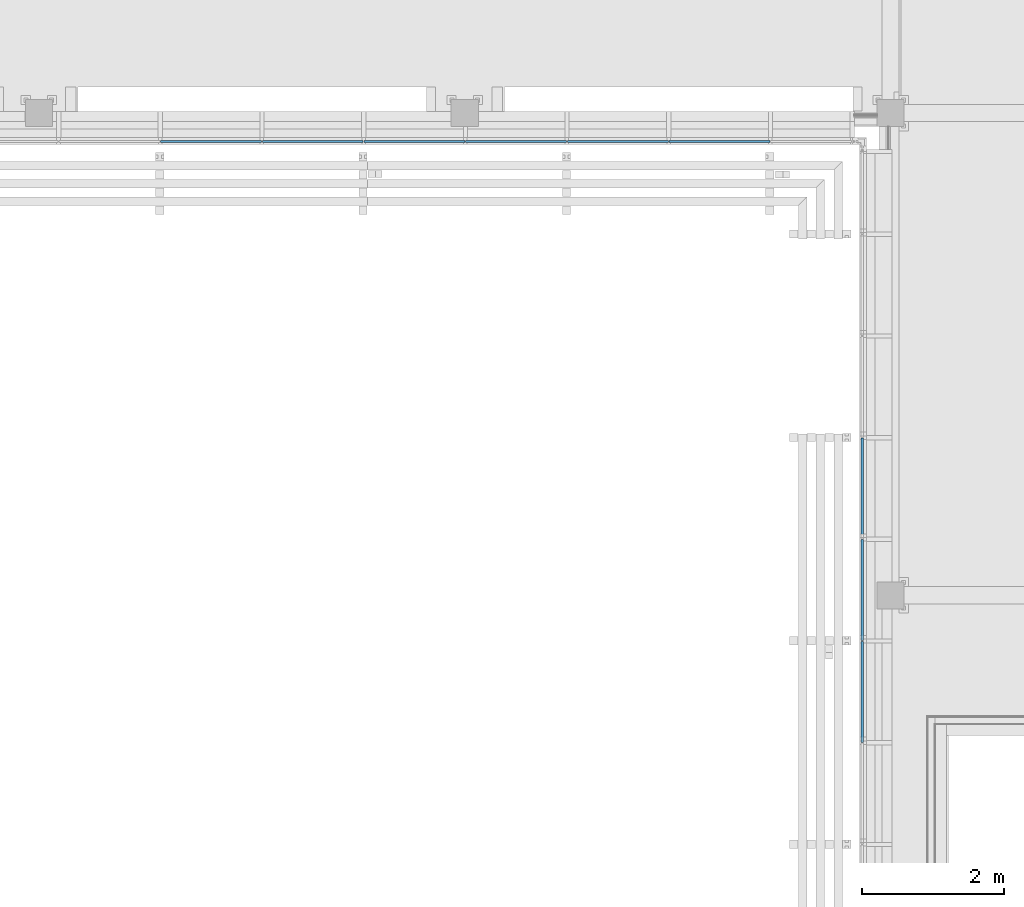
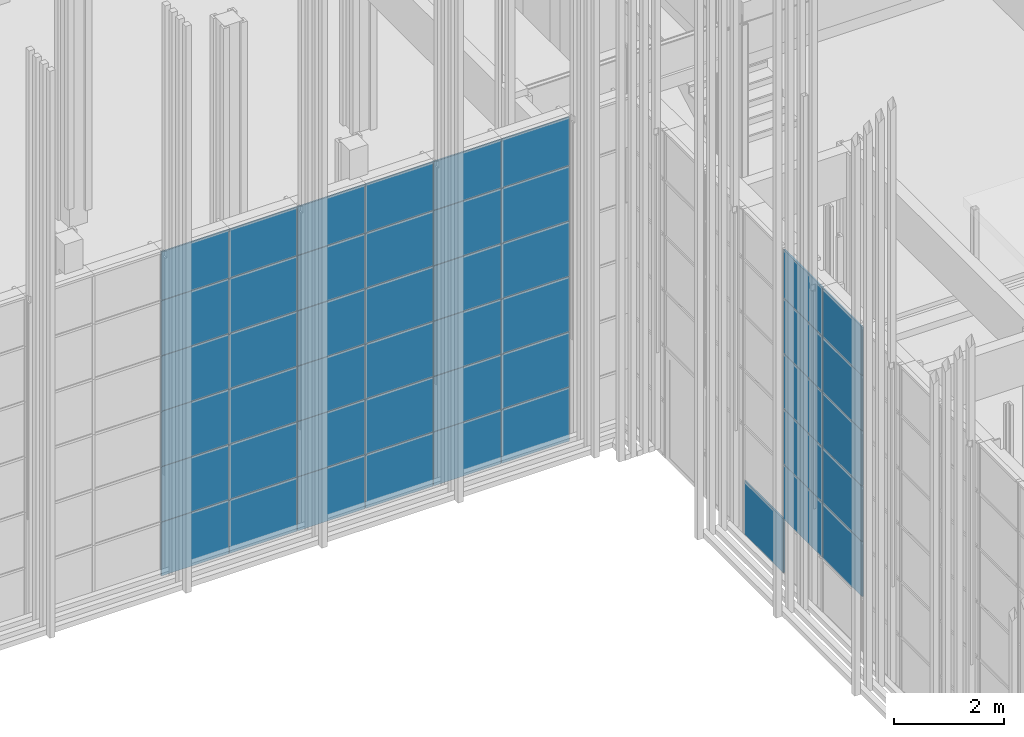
# One storey, part 53 of 260: 47 plates, 1 element without a shape of its own.
"""IFC2X3 building model written with IfcOpenShell, lengths in millimetres."""

from ifc_helpers import new_model, entity, si_unit, converted_unit, derived_unit, money_unit, direction, frame, origin_with_axes, place, context, subcontext, project, spatial, faceted_brep, source, transform, mapped, material, type_object, element, aggregate, save


model = new_model("IFC2X3")

# Units and contexts
model_context = context("Model", 3, precision=0.01, world=origin_with_axes(), true_north=direction((0.0, 1.0)))
body_context = subcontext(model_context, "Body", "Model", "MODEL_VIEW")
ifc_project = project(units=[si_unit("LENGTHUNIT", "METRE", prefix="MILLI"), si_unit("AREAUNIT", "SQUARE_METRE"), si_unit("VOLUMEUNIT", "CUBIC_METRE"), converted_unit("PLANEANGLEUNIT", "DEGREE", entity("IfcPlaneAngleMeasure", 0.0174532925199), si_unit("PLANEANGLEUNIT", "RADIAN"), dimensions=[0, 0, 0, 0, 0, 0, 0]), money_unit("EUR"), converted_unit("TIMEUNIT", "Year", entity("IfcTimeMeasure", 31556926.0), si_unit("TIMEUNIT", "SECOND"), dimensions=[0, 0, 1, 0, 0, 0, 0]), si_unit("MASSUNIT", "GRAM", prefix="KILO"), si_unit("THERMODYNAMICTEMPERATUREUNIT", "DEGREE_CELSIUS"), si_unit("LUMINOUSINTENSITYUNIT", "LUMEN"), si_unit("ENERGYUNIT", "JOULE", prefix="MEGA"), derived_unit("THERMALCONDUCTANCEUNIT", [(si_unit("POWERUNIT", "WATT"), 1), (si_unit("LENGTHUNIT", "METRE"), -1), (si_unit("THERMODYNAMICTEMPERATUREUNIT", "KELVIN"), -1)]), derived_unit("SPECIFICHEATCAPACITYUNIT", [(si_unit("ENERGYUNIT", "JOULE"), 1), (si_unit("MASSUNIT", "GRAM", prefix="KILO"), -1), (si_unit("THERMODYNAMICTEMPERATUREUNIT", "KELVIN"), -1)]), derived_unit("MASSDENSITYUNIT", [(si_unit("MASSUNIT", "GRAM", prefix="KILO"), 1), (si_unit("VOLUMEUNIT", "CUBIC_METRE"), -1)])], contexts=[model_context])

# Site, building, storey
site_placement = place(None, origin_with_axes())
site = spatial("IfcSite", under=ifc_project, at=site_placement, Name="Kolde pst 67a", CompositionType="ELEMENT")
building_placement = place(site_placement, origin_with_axes())
building = spatial("IfcBuilding", under=site, at=building_placement, Name="Riigigümnaasium", CompositionType="ELEMENT")
storey_placement = place(building_placement, origin_with_axes())
storey = spatial("IfcBuildingStorey", under=building, at=storey_placement, Name="1. korrus", CompositionType="ELEMENT", Elevation=0.0)

# Curtain wall, plates
curtain_wall_type = type_object("IfcCurtainWallType", Name="Curtain Wall Type", PredefinedType="NOTDEFINED")
curtain_wall_placement = place(storey_placement, frame((47829.9854655, 8727.77020058, -0.000749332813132), z_axis=(0.0, 0.0, 1.0), x_axis=(1.0, 0.0, 0.0)))
curtain_wall = element("IfcCurtainWall", 1, at=curtain_wall_placement, inside=storey, type_object=curtain_wall_type, Name="KLAASFASSAAD")
ifc_material = material(Name="_KLAAS - kirgas")
plate_type_1 = type_object("IfcPlateType", Name="Main Panel 72 x 1195 x 33", PredefinedType="NOTDEFINED")
shared_shape_1 = source(origin_with_axes(), body_context, "Body", "Brep", [
    faceted_brep([(-2777.75197811, 1225.00067812, -16.5), (-2777.75197811, 1225.00067812, 16.5), (-1430.00000069, 1225.00067812, 16.5), (-1430.00000069, 1225.00067812, -16.5), (-2777.75199941, 30.0000019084, -16.5), (-2777.75199941, 30.0000019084, 16.5), (-1430.00000069, 30.0000019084, 16.5), (-1357.75198011, 30.0000019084, 16.5), (-1357.75198011, 1225.00067812, 16.5), (-1357.75198011, 1225.00067812, -16.5), (-1357.75198011, 30.0000019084, -16.5), (-1430.00000069, 30.0000019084, -16.5)], [[[0, 1, 2, 3]], [[4, 5, 1, 0]], [[1, 5, 6, 7, 8, 2]], [[3, 2, 8, 9]], [[0, 3, 9, 10, 11, 4]], [[11, 6, 5, 4]], [[10, 7, 6, 11]], [[9, 8, 7, 10]]]),
])
plate_1_placement = place(curtain_wall_placement, frame((-9.12638142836e-06, 10011.2070705, 615.000374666), z_axis=(0.0, 0.0, 1.0), x_axis=(9.11611423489e-10, -1.0, 0.0)))
plate_1 = element("IfcPlate", 2, at=plate_1_placement, type_object=plate_type_1, material=ifc_material, Name="RF PANEEL PEAMINE-010", context=body_context, shape_type="MappedRepresentation", body=[
    mapped(shared_shape_1, transform((1855.16798587, 0.0, -615.000374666), x_axis=(1.0, 0.0, 0.0), y_axis=(0.0, 0.0, 1.0), z_axis=(0.0, -1.0, 0.0))),
])
plate_type_2 = type_object("IfcPlateType", Name="Main Panel 72 x 1220 x 33", PredefinedType="NOTDEFINED")
shared_shape_2 = source(origin_with_axes(), body_context, "Body", "Brep", [
    faceted_brep([(-2777.75197336, 1224.99999549, -16.5), (-2777.75197336, 1224.99999549, 16.5), (-1429.999994, 1224.99999549, 16.5), (-1429.999994, 1224.99999549, -16.5), (-2777.75197336, 5.00000998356, -16.5), (-2777.75197336, 5.00000998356, 16.5), (-1429.999994, 5.00000998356, 16.5), (-1357.76038895, 5.00000998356, 16.5), (-1357.76038895, 1224.99999549, 16.5), (-1357.76038895, 1224.99999549, -16.5), (-1357.76038895, 5.00000998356, -16.5), (-1429.999994, 5.00000998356, -16.5)], [[[0, 1, 2, 3]], [[4, 5, 1, 0]], [[1, 5, 6, 7, 8, 2]], [[3, 2, 8, 9]], [[0, 3, 9, 10, 11, 4]], [[11, 6, 5, 4]], [[10, 7, 6, 11]], [[9, 8, 7, 10]]]),
])
plate_2_placement = place(curtain_wall_placement, frame((-7.82276998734e-06, 8581.20987414, 1845.00074933), z_axis=(0.0, 0.0, 1.0), x_axis=(9.1161639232e-10, -1.0, 0.0)))
plate_2 = element("IfcPlate", 3, at=plate_2_placement, type_object=plate_type_2, material=ifc_material, Name="RF PANEEL PEAMINE-010", context=body_context, shape_type="MappedRepresentation", body=[
    mapped(shared_shape_2, transform((1855.17078947, 0.0, -615.0), x_axis=(1.0, 0.0, 0.0), y_axis=(0.0, 0.0, 1.0), z_axis=(0.0, -1.0, 0.0))),
])
plate_3_placement = place(curtain_wall_placement, frame((-7.82276998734e-06, 8581.20987211, 3075.00074933), z_axis=(0.0, 0.0, 1.0), x_axis=(9.1161639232e-10, -1.0, 0.0)))
plate_3 = element("IfcPlate", 4, at=plate_3_placement, type_object=plate_type_2, material=ifc_material, Name="RF PANEEL PEAMINE-010", context=body_context, shape_type="MappedRepresentation", body=[
    mapped(shared_shape_2, transform((1855.17078744, 0.0, -615.0), x_axis=(1.0, 0.0, 0.0), y_axis=(0.0, 0.0, 1.0), z_axis=(0.0, -1.0, 0.0))),
])
plate_4_placement = place(curtain_wall_placement, frame((-7.82276998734e-06, 8581.20987414, 5535.00074933), z_axis=(0.0, 0.0, 1.0), x_axis=(9.1161639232e-10, -1.0, 0.0)))
plate_4 = element("IfcPlate", 5, at=plate_4_placement, type_object=plate_type_2, material=ifc_material, Name="RF PANEEL PEAMINE-057", context=body_context, shape_type="MappedRepresentation", body=[
    mapped(shared_shape_2, transform((1855.17078947, 0.0, -615.0), x_axis=(1.0, 0.0, 0.0), y_axis=(0.0, 0.0, 1.0), z_axis=(0.0, -1.0, 0.0))),
])
plate_5_placement = place(curtain_wall_placement, frame((-7.82276998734e-06, 8581.20987211, 4305.00074933), z_axis=(0.0, 0.0, 1.0), x_axis=(9.1161639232e-10, -1.0, 0.0)))
plate_5 = element("IfcPlate", 6, at=plate_5_placement, type_object=plate_type_2, material=ifc_material, Name="RF PANEEL PEAMINE-039", context=body_context, shape_type="MappedRepresentation", body=[
    mapped(shared_shape_2, transform((1855.17078744, 0.0, -615.0), x_axis=(1.0, 0.0, 0.0), y_axis=(0.0, 0.0, 1.0), z_axis=(0.0, -1.0, 0.0))),
])
shared_shape_3 = source(origin_with_axes(), body_context, "Body", "Brep", [
    faceted_brep([(-2777.76037427, 1224.99999929, -16.5), (-2777.76037427, 1224.99999929, 16.5), (-1430.00000489, 1224.99999929, 16.5), (-1430.00000489, 1224.99999929, -16.5), (-2777.76037427, 5.00000469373, -16.5), (-2777.76037427, 5.00000469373, 16.5), (-1430.00000489, 5.00000469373, 16.5), (-1357.75200935, 5.00000469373, 16.5), (-1357.75200935, 1224.99999929, 16.5), (-1357.75200935, 1224.99999929, -16.5), (-1357.75200935, 5.00000469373, -16.5), (-1430.00000489, 5.00000469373, -16.5)], [[[0, 1, 2, 3]], [[4, 5, 1, 0]], [[1, 5, 6, 7, 8, 2]], [[3, 2, 8, 9]], [[0, 3, 9, 10, 11, 4]], [[11, 6, 5, 4]], [[10, 7, 6, 11]], [[9, 8, 7, 10]]]),
])
plate_6_placement = place(curtain_wall_placement, frame((-6.51916565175e-06, 7151.20987921, 4305.00074933), z_axis=(0.0, 0.0, 1.0), x_axis=(9.1161639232e-10, -1.0, 0.0)))
plate_6 = element("IfcPlate", 7, at=plate_6_placement, type_object=plate_type_2, material=ifc_material, Name="RF PANEEL PEAMINE-038", context=body_context, shape_type="MappedRepresentation", body=[
    mapped(shared_shape_3, transform((1855.17079454, 0.0, -615.0), x_axis=(1.0, 0.0, 0.0), y_axis=(0.0, 0.0, 1.0), z_axis=(0.0, -1.0, 0.0))),
])
plate_7_placement = place(curtain_wall_placement, frame((-6.51916565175e-06, 7151.20987769, 5535.00074933), z_axis=(0.0, 0.0, 1.0), x_axis=(9.1161639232e-10, -1.0, 0.0)))
plate_7 = element("IfcPlate", 8, at=plate_7_placement, type_object=plate_type_2, material=ifc_material, Name="RF PANEEL PEAMINE-055", context=body_context, shape_type="MappedRepresentation", body=[
    mapped(shared_shape_3, transform((1855.17079302, 0.0, -615.0), x_axis=(1.0, 0.0, 0.0), y_axis=(0.0, 0.0, 1.0), z_axis=(0.0, -1.0, 0.0))),
])
plate_8_placement = place(curtain_wall_placement, frame((-6.51916565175e-06, 7151.20988124, 1845.00074933), z_axis=(0.0, 0.0, 1.0), x_axis=(9.1161639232e-10, -1.0, 0.0)))
plate_8 = element("IfcPlate", 9, at=plate_8_placement, type_object=plate_type_2, material=ifc_material, Name="RF PANEEL PEAMINE-010", context=body_context, shape_type="MappedRepresentation", body=[
    mapped(shared_shape_3, transform((1855.17079657, 0.0, -615.0), x_axis=(1.0, 0.0, 0.0), y_axis=(0.0, 0.0, 1.0), z_axis=(0.0, -1.0, 0.0))),
])
plate_9_placement = place(curtain_wall_placement, frame((-6.51916565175e-06, 7151.20987921, 3075.00074933), z_axis=(0.0, 0.0, 1.0), x_axis=(9.1161639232e-10, -1.0, 0.0)))
plate_9 = element("IfcPlate", 10, at=plate_9_placement, type_object=plate_type_2, material=ifc_material, Name="RF PANEEL PEAMINE-010", context=body_context, shape_type="MappedRepresentation", body=[
    mapped(shared_shape_3, transform((1855.17079454, 0.0, -615.0), x_axis=(1.0, 0.0, 0.0), y_axis=(0.0, 0.0, 1.0), z_axis=(0.0, -1.0, 0.0))),
])
plate_type_3 = type_object("IfcPlateType", Name="Main Panel 72 x 1075 x 33", PredefinedType="NOTDEFINED")
shared_shape_4 = source(origin_with_axes(), body_context, "Body", "Brep", [
    faceted_brep([(-2777.76038635, 1079.99918528, -16.5), (-2777.76038635, 1079.99918528, 16.5), (-1430.0000067, 1079.99918528, 16.5), (-1430.0000067, 1079.99918528, -16.5), (-2777.76038635, 5.00000481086, -16.5), (-2777.76038635, 5.00000481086, 16.5), (-1430.0000067, 5.00000481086, 16.5), (-1357.75198816, 5.00000481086, 16.5), (-1357.75198816, 1079.99918528, 16.5), (-1357.75198816, 1079.99918528, -16.5), (-1357.75198816, 5.00000481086, -16.5), (-1430.0000067, 5.00000481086, -16.5)], [[[0, 1, 2, 3]], [[4, 5, 1, 0]], [[1, 5, 6, 7, 8, 2]], [[3, 2, 8, 9]], [[0, 3, 9, 10, 11, 4]], [[11, 6, 5, 4]], [[10, 7, 6, 11]], [[9, 8, 7, 10]]]),
])
plate_10_placement = place(curtain_wall_placement, frame((-6.5676175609e-06, 7204.35622804, 6841.25023585), z_axis=(0.0, 0.0, 1.0), x_axis=(9.1161639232e-10, -1.0, 0.0)))
plate_10 = element("IfcPlate", 11, at=plate_10_placement, type_object=plate_type_3, material=ifc_material, Name="RF PANEEL PEAMINE-058", context=body_context, shape_type="MappedRepresentation", body=[
    mapped(shared_shape_4, transform((1908.31714337, 0.0, -691.24948652), x_axis=(1.0, 0.0, 0.0), y_axis=(0.0, 0.0, 1.0), z_axis=(0.0, -1.0, 0.0))),
])
plate_type_4 = type_object("IfcPlateType", Name="Main Panel 1420 x 1195 x 33", PredefinedType="NOTDEFINED")
shared_shape_5 = source(origin_with_axes(), body_context, "Body", "Brep", [
    faceted_brep([(-1425.00000328, 1225.00045404, -16.5), (-1425.00000328, 1225.00045404, 16.5), (-4.99999672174, 1225.00045404, 16.5), (-4.99999672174, 1225.00045404, -16.5), (-1425.00000328, 30.0000016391, -16.5), (-1425.00000328, 30.0000016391, 16.5), (-4.99999672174, 30.0000016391, 16.5), (-4.99999672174, 30.0000016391, -16.5)], [[[0, 1, 2, 3]], [[4, 5, 1, 0]], [[1, 5, 6, 2]], [[3, 2, 6, 7]], [[0, 3, 7, 4]], [[7, 6, 5, 4]]]),
])
plate_11_placement = place(curtain_wall_placement, frame((-2007.41506419, 15102.252851, 615.000517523), z_axis=(0.0, 0.0, 1.0), x_axis=(0.999999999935, -1.14108152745e-05, 0.0)))
plate_11 = element("IfcPlate", 12, at=plate_11_placement, type_object=plate_type_4, material=ifc_material, Name="RF PANEEL PEAMINE-091", context=body_context, shape_type="MappedRepresentation", body=[
    mapped(shared_shape_5, transform((715.0, 0.0, -615.00023181), x_axis=(1.0, 0.0, 0.0), y_axis=(0.0, 0.0, 1.0), z_axis=(0.0, -1.0, 0.0))),
])
plate_12_placement = place(curtain_wall_placement, frame((-3437.4150641, 15102.2691685, 615.000517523), z_axis=(0.0, 0.0, 1.0), x_axis=(0.999999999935, -1.14108152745e-05, 0.0)))
plate_12 = element("IfcPlate", 13, at=plate_12_placement, type_object=plate_type_4, material=ifc_material, Name="RF PANEEL PEAMINE-096", context=body_context, shape_type="MappedRepresentation", body=[
    mapped(shared_shape_5, transform((715.0, 0.0, -615.00023181), x_axis=(1.0, 0.0, 0.0), y_axis=(0.0, 0.0, 1.0), z_axis=(0.0, -1.0, 0.0))),
])
plate_13_placement = place(curtain_wall_placement, frame((-4867.41506401, 15102.285486, 615.000517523), z_axis=(0.0, 0.0, 1.0), x_axis=(0.999999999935, -1.1410815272e-05, 0.0)))
plate_13 = element("IfcPlate", 14, at=plate_13_placement, type_object=plate_type_4, material=ifc_material, Name="RF PANEEL PEAMINE-101", context=body_context, shape_type="MappedRepresentation", body=[
    mapped(shared_shape_5, transform((715.0, 0.0, -615.00023181), x_axis=(1.0, 0.0, 0.0), y_axis=(0.0, 0.0, 1.0), z_axis=(0.0, -1.0, 0.0))),
])
plate_14_placement = place(curtain_wall_placement, frame((-6297.41506391, 15102.3018034, 615.000517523), z_axis=(0.0, 0.0, 1.0), x_axis=(0.999999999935, -1.14108152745e-05, 0.0)))
plate_14 = element("IfcPlate", 15, at=plate_14_placement, type_object=plate_type_4, material=ifc_material, Name="RF PANEEL PEAMINE-107", context=body_context, shape_type="MappedRepresentation", body=[
    mapped(shared_shape_5, transform((715.0, 0.0, -615.00023181), x_axis=(1.0, 0.0, 0.0), y_axis=(0.0, 0.0, 1.0), z_axis=(0.0, -1.0, 0.0))),
])
plate_15_placement = place(curtain_wall_placement, frame((-7727.41506382, 15102.3181209, 615.000517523), z_axis=(0.0, 0.0, 1.0), x_axis=(0.999999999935, -1.1410815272e-05, 0.0)))
plate_15 = element("IfcPlate", 16, at=plate_15_placement, type_object=plate_type_4, material=ifc_material, Name="RF PANEEL PEAMINE-113", context=body_context, shape_type="MappedRepresentation", body=[
    mapped(shared_shape_5, transform((715.0, 0.0, -615.00023181), x_axis=(1.0, 0.0, 0.0), y_axis=(0.0, 0.0, 1.0), z_axis=(0.0, -1.0, 0.0))),
])
plate_16_placement = place(curtain_wall_placement, frame((-9157.41506373, 15102.3344384, 615.000517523), z_axis=(0.0, 0.0, 1.0), x_axis=(0.999999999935, -1.14108152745e-05, 0.0)))
plate_16 = element("IfcPlate", 17, at=plate_16_placement, type_object=plate_type_4, material=ifc_material, Name="RF PANEEL PEAMINE-119", context=body_context, shape_type="MappedRepresentation", body=[
    mapped(shared_shape_5, transform((715.0, 0.0, -615.00023181), x_axis=(1.0, 0.0, 0.0), y_axis=(0.0, 0.0, 1.0), z_axis=(0.0, -1.0, 0.0))),
])
plate_type_5 = type_object("IfcPlateType", Name="Main Panel 1420 x 1220 x 33", PredefinedType="NOTDEFINED")
shared_shape_6 = source(origin_with_axes(), body_context, "Body", "Brep", [
    faceted_brep([(-1425.00000328, 1225.00000656, -16.5), (-1425.00000328, 1225.00000656, 16.5), (-4.99999672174, 1225.00000656, 16.5), (-4.99999672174, 1225.00000656, -16.5), (-1425.00000328, 4.99999672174, -16.5), (-1425.00000328, 4.99999672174, 16.5), (-4.99999672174, 4.99999672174, 16.5), (-4.99999672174, 4.99999672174, -16.5)], [[[0, 1, 2, 3]], [[4, 5, 1, 0]], [[1, 5, 6, 2]], [[3, 2, 6, 7]], [[0, 3, 7, 4]], [[7, 6, 5, 4]]]),
])
plate_17_placement = place(curtain_wall_placement, frame((-2007.41506419, 15102.252851, 1845.00074933), z_axis=(0.0, 0.0, 1.0), x_axis=(0.999999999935, -1.14108152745e-05, 0.0)))
plate_17 = element("IfcPlate", 18, at=plate_17_placement, type_object=plate_type_5, material=ifc_material, Name="RF PANEEL PEAMINE-092", context=body_context, shape_type="MappedRepresentation", body=[
    mapped(shared_shape_6, transform((715.0, 0.0, -615.0), x_axis=(1.0, 0.0, 0.0), y_axis=(0.0, 0.0, 1.0), z_axis=(0.0, -1.0, 0.0))),
])
plate_18_placement = place(curtain_wall_placement, frame((-2007.41506419, 15102.252851, 3075.00074933), z_axis=(0.0, 0.0, 1.0), x_axis=(0.999999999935, -1.14108152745e-05, 0.0)))
plate_18 = element("IfcPlate", 19, at=plate_18_placement, type_object=plate_type_5, material=ifc_material, Name="RF PANEEL PEAMINE-093", context=body_context, shape_type="MappedRepresentation", body=[
    mapped(shared_shape_6, transform((715.0, 0.0, -615.0), x_axis=(1.0, 0.0, 0.0), y_axis=(0.0, 0.0, 1.0), z_axis=(0.0, -1.0, 0.0))),
])
plate_19_placement = place(curtain_wall_placement, frame((-2007.41506419, 15102.252851, 4305.00074933), z_axis=(0.0, 0.0, 1.0), x_axis=(0.999999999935, -1.14108152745e-05, 0.0)))
plate_19 = element("IfcPlate", 20, at=plate_19_placement, type_object=plate_type_5, material=ifc_material, Name="RF PANEEL PEAMINE-094", context=body_context, shape_type="MappedRepresentation", body=[
    mapped(shared_shape_6, transform((715.0, 0.0, -615.0), x_axis=(1.0, 0.0, 0.0), y_axis=(0.0, 0.0, 1.0), z_axis=(0.0, -1.0, 0.0))),
])
plate_20_placement = place(curtain_wall_placement, frame((-2007.41506419, 15102.252851, 5535.00074933), z_axis=(0.0, 0.0, 1.0), x_axis=(0.999999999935, -1.14108152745e-05, 0.0)))
plate_20 = element("IfcPlate", 21, at=plate_20_placement, type_object=plate_type_5, material=ifc_material, Name="RF PANEEL PEAMINE-095", context=body_context, shape_type="MappedRepresentation", body=[
    mapped(shared_shape_6, transform((715.0, 0.0, -615.0), x_axis=(1.0, 0.0, 0.0), y_axis=(0.0, 0.0, 1.0), z_axis=(0.0, -1.0, 0.0))),
])
plate_21_placement = place(curtain_wall_placement, frame((-3437.4150641, 15102.2691685, 1845.00074933), z_axis=(0.0, 0.0, 1.0), x_axis=(0.999999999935, -1.14108152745e-05, 0.0)))
plate_21 = element("IfcPlate", 22, at=plate_21_placement, type_object=plate_type_5, material=ifc_material, Name="RF PANEEL PEAMINE-097", context=body_context, shape_type="MappedRepresentation", body=[
    mapped(shared_shape_6, transform((715.0, 0.0, -615.0), x_axis=(1.0, 0.0, 0.0), y_axis=(0.0, 0.0, 1.0), z_axis=(0.0, -1.0, 0.0))),
])
plate_22_placement = place(curtain_wall_placement, frame((-3437.4150641, 15102.2691685, 3075.00074933), z_axis=(0.0, 0.0, 1.0), x_axis=(0.999999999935, -1.14108152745e-05, 0.0)))
plate_22 = element("IfcPlate", 23, at=plate_22_placement, type_object=plate_type_5, material=ifc_material, Name="RF PANEEL PEAMINE-098", context=body_context, shape_type="MappedRepresentation", body=[
    mapped(shared_shape_6, transform((715.0, 0.0, -615.0), x_axis=(1.0, 0.0, 0.0), y_axis=(0.0, 0.0, 1.0), z_axis=(0.0, -1.0, 0.0))),
])
plate_23_placement = place(curtain_wall_placement, frame((-3437.4150641, 15102.2691685, 4305.00074933), z_axis=(0.0, 0.0, 1.0), x_axis=(0.999999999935, -1.14108152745e-05, 0.0)))
plate_23 = element("IfcPlate", 24, at=plate_23_placement, type_object=plate_type_5, material=ifc_material, Name="RF PANEEL PEAMINE-099", context=body_context, shape_type="MappedRepresentation", body=[
    mapped(shared_shape_6, transform((715.0, 0.0, -615.0), x_axis=(1.0, 0.0, 0.0), y_axis=(0.0, 0.0, 1.0), z_axis=(0.0, -1.0, 0.0))),
])
plate_24_placement = place(curtain_wall_placement, frame((-3437.4150641, 15102.2691685, 5535.00074933), z_axis=(0.0, 0.0, 1.0), x_axis=(0.999999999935, -1.14108152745e-05, 0.0)))
plate_24 = element("IfcPlate", 25, at=plate_24_placement, type_object=plate_type_5, material=ifc_material, Name="RF PANEEL PEAMINE-100", context=body_context, shape_type="MappedRepresentation", body=[
    mapped(shared_shape_6, transform((715.0, 0.0, -615.0), x_axis=(1.0, 0.0, 0.0), y_axis=(0.0, 0.0, 1.0), z_axis=(0.0, -1.0, 0.0))),
])
plate_25_placement = place(curtain_wall_placement, frame((-4867.41506401, 15102.285486, 1845.00074933), z_axis=(0.0, 0.0, 1.0), x_axis=(0.999999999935, -1.1410815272e-05, 0.0)))
plate_25 = element("IfcPlate", 26, at=plate_25_placement, type_object=plate_type_5, material=ifc_material, Name="RF PANEEL PEAMINE-102", context=body_context, shape_type="MappedRepresentation", body=[
    mapped(shared_shape_6, transform((715.0, 0.0, -615.0), x_axis=(1.0, 0.0, 0.0), y_axis=(0.0, 0.0, 1.0), z_axis=(0.0, -1.0, 0.0))),
])
plate_26_placement = place(curtain_wall_placement, frame((-4867.41506401, 15102.285486, 3075.00074933), z_axis=(0.0, 0.0, 1.0), x_axis=(0.999999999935, -1.1410815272e-05, 0.0)))
plate_26 = element("IfcPlate", 27, at=plate_26_placement, type_object=plate_type_5, material=ifc_material, Name="RF PANEEL PEAMINE-103", context=body_context, shape_type="MappedRepresentation", body=[
    mapped(shared_shape_6, transform((715.0, 0.0, -615.0), x_axis=(1.0, 0.0, 0.0), y_axis=(0.0, 0.0, 1.0), z_axis=(0.0, -1.0, 0.0))),
])
plate_27_placement = place(curtain_wall_placement, frame((-4867.41506401, 15102.285486, 4305.00074933), z_axis=(0.0, 0.0, 1.0), x_axis=(0.999999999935, -1.1410815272e-05, 0.0)))
plate_27 = element("IfcPlate", 28, at=plate_27_placement, type_object=plate_type_5, material=ifc_material, Name="RF PANEEL PEAMINE-104", context=body_context, shape_type="MappedRepresentation", body=[
    mapped(shared_shape_6, transform((715.0, 0.0, -615.0), x_axis=(1.0, 0.0, 0.0), y_axis=(0.0, 0.0, 1.0), z_axis=(0.0, -1.0, 0.0))),
])
plate_28_placement = place(curtain_wall_placement, frame((-4867.41506401, 15102.285486, 5535.00074933), z_axis=(0.0, 0.0, 1.0), x_axis=(0.999999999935, -1.1410815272e-05, 0.0)))
plate_28 = element("IfcPlate", 29, at=plate_28_placement, type_object=plate_type_5, material=ifc_material, Name="RF PANEEL PEAMINE-105", context=body_context, shape_type="MappedRepresentation", body=[
    mapped(shared_shape_6, transform((715.0, 0.0, -615.0), x_axis=(1.0, 0.0, 0.0), y_axis=(0.0, 0.0, 1.0), z_axis=(0.0, -1.0, 0.0))),
])
plate_29_placement = place(curtain_wall_placement, frame((-6297.41506391, 15102.3018034, 1845.00074933), z_axis=(0.0, 0.0, 1.0), x_axis=(0.999999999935, -1.14108152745e-05, 0.0)))
plate_29 = element("IfcPlate", 30, at=plate_29_placement, type_object=plate_type_5, material=ifc_material, Name="RF PANEEL PEAMINE-108", context=body_context, shape_type="MappedRepresentation", body=[
    mapped(shared_shape_6, transform((715.0, 0.0, -615.0), x_axis=(1.0, 0.0, 0.0), y_axis=(0.0, 0.0, 1.0), z_axis=(0.0, -1.0, 0.0))),
])
plate_30_placement = place(curtain_wall_placement, frame((-6297.41506391, 15102.3018034, 3075.00074933), z_axis=(0.0, 0.0, 1.0), x_axis=(0.999999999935, -1.14108152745e-05, 0.0)))
plate_30 = element("IfcPlate", 31, at=plate_30_placement, type_object=plate_type_5, material=ifc_material, Name="RF PANEEL PEAMINE-109", context=body_context, shape_type="MappedRepresentation", body=[
    mapped(shared_shape_6, transform((715.0, 0.0, -615.0), x_axis=(1.0, 0.0, 0.0), y_axis=(0.0, 0.0, 1.0), z_axis=(0.0, -1.0, 0.0))),
])
plate_31_placement = place(curtain_wall_placement, frame((-6297.41506391, 15102.3018034, 4305.00074933), z_axis=(0.0, 0.0, 1.0), x_axis=(0.999999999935, -1.14108152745e-05, 0.0)))
plate_31 = element("IfcPlate", 32, at=plate_31_placement, type_object=plate_type_5, material=ifc_material, Name="RF PANEEL PEAMINE-110", context=body_context, shape_type="MappedRepresentation", body=[
    mapped(shared_shape_6, transform((715.0, 0.0, -615.0), x_axis=(1.0, 0.0, 0.0), y_axis=(0.0, 0.0, 1.0), z_axis=(0.0, -1.0, 0.0))),
])
plate_32_placement = place(curtain_wall_placement, frame((-6297.41506391, 15102.3018034, 5535.00074933), z_axis=(0.0, 0.0, 1.0), x_axis=(0.999999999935, -1.14108152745e-05, 0.0)))
plate_32 = element("IfcPlate", 33, at=plate_32_placement, type_object=plate_type_5, material=ifc_material, Name="RF PANEEL PEAMINE-111", context=body_context, shape_type="MappedRepresentation", body=[
    mapped(shared_shape_6, transform((715.0, 0.0, -615.0), x_axis=(1.0, 0.0, 0.0), y_axis=(0.0, 0.0, 1.0), z_axis=(0.0, -1.0, 0.0))),
])
plate_33_placement = place(curtain_wall_placement, frame((-7727.41506382, 15102.3181209, 1845.00074933), z_axis=(0.0, 0.0, 1.0), x_axis=(0.999999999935, -1.1410815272e-05, 0.0)))
plate_33 = element("IfcPlate", 34, at=plate_33_placement, type_object=plate_type_5, material=ifc_material, Name="RF PANEEL PEAMINE-114", context=body_context, shape_type="MappedRepresentation", body=[
    mapped(shared_shape_6, transform((715.0, 0.0, -615.0), x_axis=(1.0, 0.0, 0.0), y_axis=(0.0, 0.0, 1.0), z_axis=(0.0, -1.0, 0.0))),
])
plate_34_placement = place(curtain_wall_placement, frame((-7727.41506382, 15102.3181209, 3075.00074933), z_axis=(0.0, 0.0, 1.0), x_axis=(0.999999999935, -1.1410815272e-05, 0.0)))
plate_34 = element("IfcPlate", 35, at=plate_34_placement, type_object=plate_type_5, material=ifc_material, Name="RF PANEEL PEAMINE-115", context=body_context, shape_type="MappedRepresentation", body=[
    mapped(shared_shape_6, transform((715.0, 0.0, -615.0), x_axis=(1.0, 0.0, 0.0), y_axis=(0.0, 0.0, 1.0), z_axis=(0.0, -1.0, 0.0))),
])
plate_35_placement = place(curtain_wall_placement, frame((-7727.41506382, 15102.3181209, 4305.00074933), z_axis=(0.0, 0.0, 1.0), x_axis=(0.999999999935, -1.1410815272e-05, 0.0)))
plate_35 = element("IfcPlate", 36, at=plate_35_placement, type_object=plate_type_5, material=ifc_material, Name="RF PANEEL PEAMINE-116", context=body_context, shape_type="MappedRepresentation", body=[
    mapped(shared_shape_6, transform((715.0, 0.0, -615.0), x_axis=(1.0, 0.0, 0.0), y_axis=(0.0, 0.0, 1.0), z_axis=(0.0, -1.0, 0.0))),
])
plate_36_placement = place(curtain_wall_placement, frame((-7727.41506382, 15102.3181209, 5535.00074933), z_axis=(0.0, 0.0, 1.0), x_axis=(0.999999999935, -1.1410815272e-05, 0.0)))
plate_36 = element("IfcPlate", 37, at=plate_36_placement, type_object=plate_type_5, material=ifc_material, Name="RF PANEEL PEAMINE-117", context=body_context, shape_type="MappedRepresentation", body=[
    mapped(shared_shape_6, transform((715.0, 0.0, -615.0), x_axis=(1.0, 0.0, 0.0), y_axis=(0.0, 0.0, 1.0), z_axis=(0.0, -1.0, 0.0))),
])
plate_37_placement = place(curtain_wall_placement, frame((-9157.41506373, 15102.3344384, 1845.00074933), z_axis=(0.0, 0.0, 1.0), x_axis=(0.999999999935, -1.14108152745e-05, 0.0)))
plate_37 = element("IfcPlate", 38, at=plate_37_placement, type_object=plate_type_5, material=ifc_material, Name="RF PANEEL PEAMINE-120", context=body_context, shape_type="MappedRepresentation", body=[
    mapped(shared_shape_6, transform((715.0, 0.0, -615.0), x_axis=(1.0, 0.0, 0.0), y_axis=(0.0, 0.0, 1.0), z_axis=(0.0, -1.0, 0.0))),
])
plate_38_placement = place(curtain_wall_placement, frame((-9157.41506373, 15102.3344384, 3075.00074933), z_axis=(0.0, 0.0, 1.0), x_axis=(0.999999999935, -1.14108152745e-05, 0.0)))
plate_38 = element("IfcPlate", 39, at=plate_38_placement, type_object=plate_type_5, material=ifc_material, Name="RF PANEEL PEAMINE-121", context=body_context, shape_type="MappedRepresentation", body=[
    mapped(shared_shape_6, transform((715.0, 0.0, -615.0), x_axis=(1.0, 0.0, 0.0), y_axis=(0.0, 0.0, 1.0), z_axis=(0.0, -1.0, 0.0))),
])
plate_39_placement = place(curtain_wall_placement, frame((-9157.41506373, 15102.3344384, 4305.00074933), z_axis=(0.0, 0.0, 1.0), x_axis=(0.999999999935, -1.14108152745e-05, 0.0)))
plate_39 = element("IfcPlate", 40, at=plate_39_placement, type_object=plate_type_5, material=ifc_material, Name="RF PANEEL PEAMINE-122", context=body_context, shape_type="MappedRepresentation", body=[
    mapped(shared_shape_6, transform((715.0, 0.0, -615.0), x_axis=(1.0, 0.0, 0.0), y_axis=(0.0, 0.0, 1.0), z_axis=(0.0, -1.0, 0.0))),
])
plate_40_placement = place(curtain_wall_placement, frame((-9157.41506373, 15102.3344384, 5535.00074933), z_axis=(0.0, 0.0, 1.0), x_axis=(0.999999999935, -1.14108152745e-05, 0.0)))
plate_40 = element("IfcPlate", 41, at=plate_40_placement, type_object=plate_type_5, material=ifc_material, Name="RF PANEEL PEAMINE-123", context=body_context, shape_type="MappedRepresentation", body=[
    mapped(shared_shape_6, transform((715.0, 0.0, -615.0), x_axis=(1.0, 0.0, 0.0), y_axis=(0.0, 0.0, 1.0), z_axis=(0.0, -1.0, 0.0))),
])
plate_type_6 = type_object("IfcPlateType", Name="Main Panel 1420 x 1075 x 33", PredefinedType="NOTDEFINED")
shared_shape_7 = source(origin_with_axes(), body_context, "Body", "Brep", [
    faceted_brep([(-1425.00000328, 1079.99918535, -16.5), (-1425.00000328, 1079.99918535, 16.5), (-4.99999672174, 1079.99918535, 16.5), (-4.99999672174, 1079.99918535, -16.5), (-1425.00000328, 4.99999672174, -16.5), (-1425.00000328, 4.99999672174, 16.5), (-4.99999672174, 4.99999672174, 16.5), (-4.99999672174, 4.99999672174, -16.5)], [[[0, 1, 2, 3]], [[4, 5, 1, 0]], [[1, 5, 6, 2]], [[3, 2, 6, 7]], [[0, 3, 7, 4]], [[7, 6, 5, 4]]]),
])
plate_41_placement = place(curtain_wall_placement, frame((-2007.41506419, 15102.252851, 6705.00033834), z_axis=(0.0, 0.0, 1.0), x_axis=(0.999999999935, -1.14108152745e-05, 0.0)))
plate_41 = element("IfcPlate", 42, at=plate_41_placement, type_object=plate_type_6, material=ifc_material, Name="RF PANEEL PEAMINE-130", context=body_context, shape_type="MappedRepresentation", body=[
    mapped(shared_shape_7, transform((715.0, 0.0, -554.99958901), x_axis=(1.0, 0.0, 0.0), y_axis=(0.0, 0.0, 1.0), z_axis=(0.0, -1.0, 0.0))),
])
plate_42_placement = place(curtain_wall_placement, frame((-3437.4150641, 15102.2691685, 6705.00033834), z_axis=(0.0, 0.0, 1.0), x_axis=(0.999999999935, -1.14108152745e-05, 0.0)))
plate_42 = element("IfcPlate", 43, at=plate_42_placement, type_object=plate_type_6, material=ifc_material, Name="RF PANEEL PEAMINE-136", context=body_context, shape_type="MappedRepresentation", body=[
    mapped(shared_shape_7, transform((715.0, 0.0, -554.99958901), x_axis=(1.0, 0.0, 0.0), y_axis=(0.0, 0.0, 1.0), z_axis=(0.0, -1.0, 0.0))),
])
plate_43_placement = place(curtain_wall_placement, frame((-4867.41506401, 15102.285486, 6705.00033834), z_axis=(0.0, 0.0, 1.0), x_axis=(0.999999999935, -1.1410815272e-05, 0.0)))
plate_43 = element("IfcPlate", 44, at=plate_43_placement, type_object=plate_type_6, material=ifc_material, Name="RF PANEEL PEAMINE-142", context=body_context, shape_type="MappedRepresentation", body=[
    mapped(shared_shape_7, transform((715.0, 0.0, -554.99958901), x_axis=(1.0, 0.0, 0.0), y_axis=(0.0, 0.0, 1.0), z_axis=(0.0, -1.0, 0.0))),
])
plate_44_placement = place(curtain_wall_placement, frame((-6297.41506391, 15102.3018034, 6705.00033834), z_axis=(0.0, 0.0, 1.0), x_axis=(0.999999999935, -1.14108152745e-05, 0.0)))
plate_44 = element("IfcPlate", 45, at=plate_44_placement, type_object=plate_type_6, material=ifc_material, Name="RF PANEEL PEAMINE-148", context=body_context, shape_type="MappedRepresentation", body=[
    mapped(shared_shape_7, transform((715.0, 0.0, -554.99958901), x_axis=(1.0, 0.0, 0.0), y_axis=(0.0, 0.0, 1.0), z_axis=(0.0, -1.0, 0.0))),
])
plate_45_placement = place(curtain_wall_placement, frame((-7727.41506382, 15102.3181209, 6705.00033834), z_axis=(0.0, 0.0, 1.0), x_axis=(0.999999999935, -1.1410815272e-05, 0.0)))
plate_45 = element("IfcPlate", 46, at=plate_45_placement, type_object=plate_type_6, material=ifc_material, Name="RF PANEEL PEAMINE-154", context=body_context, shape_type="MappedRepresentation", body=[
    mapped(shared_shape_7, transform((715.0, 0.0, -554.99958901), x_axis=(1.0, 0.0, 0.0), y_axis=(0.0, 0.0, 1.0), z_axis=(0.0, -1.0, 0.0))),
])
plate_46_placement = place(curtain_wall_placement, frame((-9157.41506373, 15102.3344384, 6705.00033834), z_axis=(0.0, 0.0, 1.0), x_axis=(0.999999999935, -1.14108152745e-05, 0.0)))
plate_46 = element("IfcPlate", 47, at=plate_46_placement, type_object=plate_type_6, material=ifc_material, Name="RF PANEEL PEAMINE-160", context=body_context, shape_type="MappedRepresentation", body=[
    mapped(shared_shape_7, transform((715.0, 0.0, -554.99958901), x_axis=(1.0, 0.0, 0.0), y_axis=(0.0, 0.0, 1.0), z_axis=(0.0, -1.0, 0.0))),
])
shared_shape_8 = source(origin_with_axes(), body_context, "Body", "Brep", [
    faceted_brep([(-2777.75198579, 1079.99920398, -16.5), (-2777.75198579, 1079.99920398, 16.5), (-1429.99999467, 1079.99920398, 16.5), (-1429.99999467, 1079.99920398, -16.5), (-2777.75198579, 5.00001002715, -16.5), (-2777.75198579, 5.00001002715, 16.5), (-1429.99999467, 5.00001002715, 16.5), (-1357.76038899, 5.00001002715, 16.5), (-1357.7604103, 1079.99920398, 16.5), (-1357.7604103, 1079.99920398, -16.5), (-1357.76038899, 5.00001002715, -16.5), (-1429.99999467, 5.00001002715, -16.5)], [[[0, 1, 2, 3]], [[4, 5, 1, 0]], [[1, 5, 6, 7, 8, 2]], [[3, 2, 8, 9]], [[0, 3, 9, 10, 11, 4]], [[11, 6, 5, 4]], [[10, 7, 6, 11]], [[9, 8, 7, 10]]]),
])
plate_47_placement = place(curtain_wall_placement, frame((-7.87121479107e-06, 8634.35622319, 6841.25023585), z_axis=(0.0, 0.0, 1.0), x_axis=(9.1161639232e-10, -1.0, 0.0)))
plate_47 = element("IfcPlate", 48, at=plate_47_placement, type_object=plate_type_3, material=ifc_material, Name="RF PANEEL PEAMINE-060", context=body_context, shape_type="MappedRepresentation", body=[
    mapped(shared_shape_8, transform((1908.31713852, 0.0, -691.24948652), x_axis=(1.0, 0.0, 0.0), y_axis=(0.0, 0.0, 1.0), z_axis=(0.0, -1.0, 0.0))),
])
aggregate(curtain_wall, [plate_2, plate_3, plate_1, plate_6, plate_4, plate_10, plate_11, plate_17, plate_18, plate_19, plate_20, plate_12, plate_21, plate_22, plate_23, plate_24, plate_13, plate_25, plate_26, plate_27, plate_28, plate_14, plate_29, plate_30, plate_31, plate_32, plate_15, plate_33, plate_34, plate_35, plate_36, plate_16, plate_37, plate_38, plate_39, plate_40, plate_41, plate_42, plate_43, plate_44, plate_45, plate_46, plate_5, plate_47, plate_7, plate_8, plate_9])

save(model, "model.ifc")
